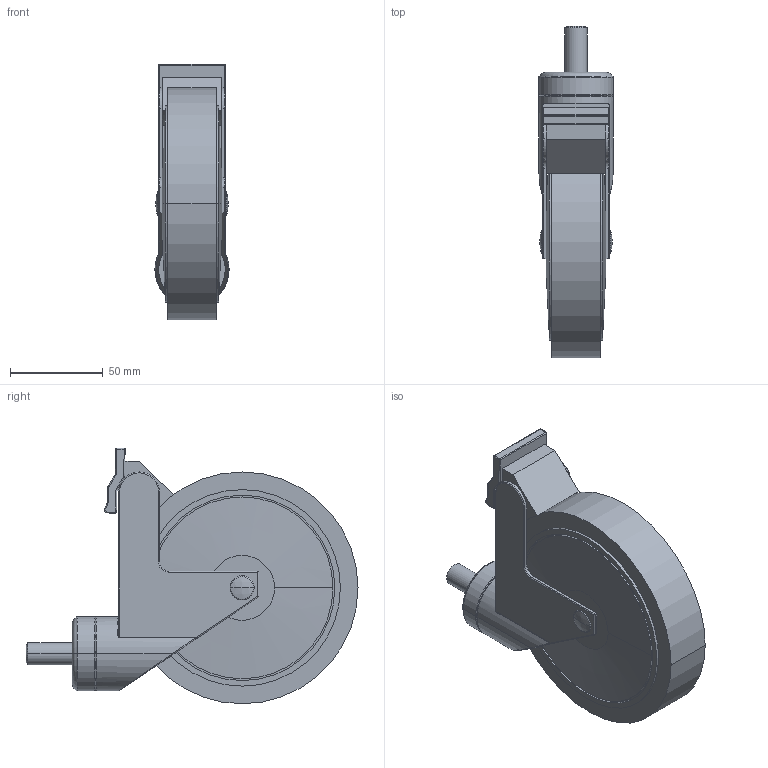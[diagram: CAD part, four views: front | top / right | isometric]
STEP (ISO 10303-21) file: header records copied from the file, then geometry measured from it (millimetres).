
FILE_DESCRIPTION (( 'STEP AP203' ), '1' );
FILE_NAME ('282577.step', '2016-10-29T02:55:00', ( '微软用户' ), ( '微软中国' ), 'SwSTEP 2.0', 'SolidWorks 2010', '' );
FILE_SCHEMA (( 'CONFIG_CONTROL_DESIGN' ));
Length unit declared in the file: millimetre
Products named in the file (4): 282577; ﾖﾐﾐﾍﾋｿｸﾋﾋｫﾉｲﾖｧｼﾜ_H154ﾖﾐﾐﾍﾋｿｸﾋﾋｫﾉｲﾖｧｼﾜ; 笢倰邧价_ZXS125; 閉噙擄停眲謫P_D125閉噙擄停眲謫P-窪
Assembly tree (3 placements, depth 2):
  282577
    笢倰邧价_ZXS125
    ﾖﾐﾐﾍﾋｿｸﾋﾋｫﾉｲﾖｧｼﾜ_H154ﾖﾐﾐﾍﾋｿｸﾋﾋｫﾉｲﾖｧｼﾜ
    閉噙擄停眲謫P_D125閉噙擄停眲謫P-窪
Bounding box: 40 x 179 x 137.8 mm (x, y, z)
Volume: 417981.3 mm3; surface area: 75933.6 mm2
Topology: 3 solids, 3 shells, 186 faces, 429 edges, 250 vertices
Faces by surface type: cylinder 88, plane 47, torus 23, sphere 16, cone 6, bspline 6
Entity records: 6569 total; most frequent: CARTESIAN_POINT 1938, DIRECTION 970, ORIENTED_EDGE 834, EDGE_CURVE 417, AXIS2_PLACEMENT_3D 392, VERTEX_POINT 248, CIRCLE 206, EDGE_LOOP 205
